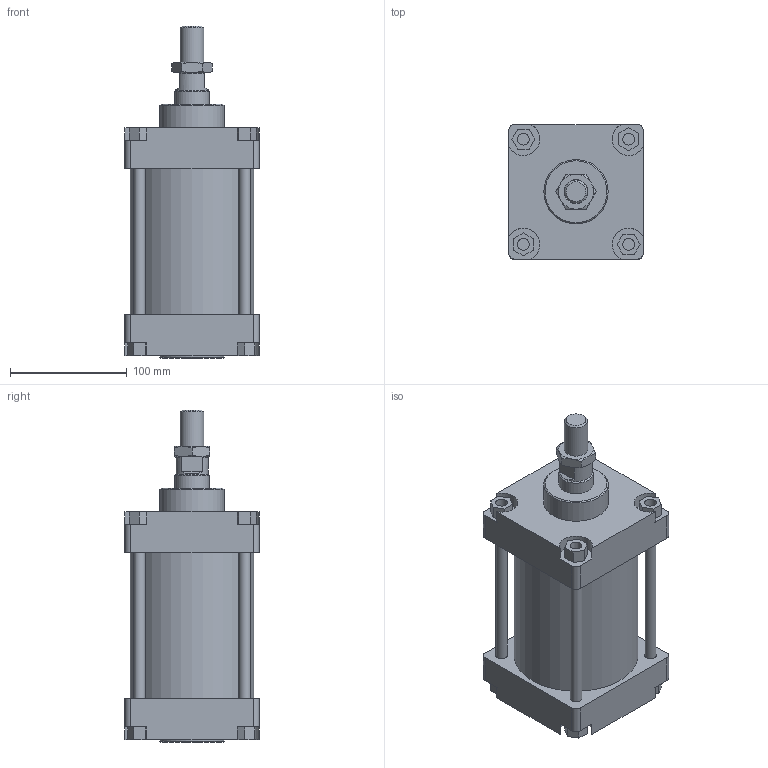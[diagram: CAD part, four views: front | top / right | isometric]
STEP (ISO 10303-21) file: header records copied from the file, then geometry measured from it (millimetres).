
FILE_DESCRIPTION(/* description */ (''),/* implementation_level */ '2;1');
FILE_NAME(/* name */ 'I:\Area Tecnica\Disegni\VARIE-3D\Componenti\CSP\Ø100\130#_100_####_###\130#_100_0050_01A.stp',/* time_stamp */ '2016-11-24T13:50:46+01:00',/* author */ ('Maniean1'),/* organization */ ('Pneumax S.p.A.'),/* preprocessor_version */ 'ST-DEVELOPER v15.2',/* originating_system */ 'Autodesk Inventor 2014',/* authorisation */ '');
FILE_SCHEMA (('AUTOMOTIVE_DESIGN { 1 0 10303 214 3 1 1 }'));
Length unit declared in the file: millimetre
Products named in the file (6): C_130#_100_0050; Testata anteriore_100; Testata posteriore_100; S_130#_100_0050_01A; 130#_100_18F; 130#_100_0050_01A
Bounding box: 115 x 115 x 284 mm (x, y, z)
Volume: 1704972.2 mm3; surface area: 267291 mm2
Topology: 9 solids, 9 shells, 162 faces, 380 edges, 249 vertices
Faces by surface type: plane 105, cylinder 42, cone 15
Full cylindrical faces by diameter (mm): 10 x12, 18.376 x1, 18.5 x1, 19 x2, 20 x1, 28 x1, 30 x3, 55 x2, 100 x2, 106 x1
Entity records: 4530 total; most frequent: CARTESIAN_POINT 785, DIRECTION 764, ORIENTED_EDGE 672, EDGE_CURVE 336, AXIS2_PLACEMENT_3D 271, VERTEX_POINT 244, EDGE_LOOP 236, LINE 222
